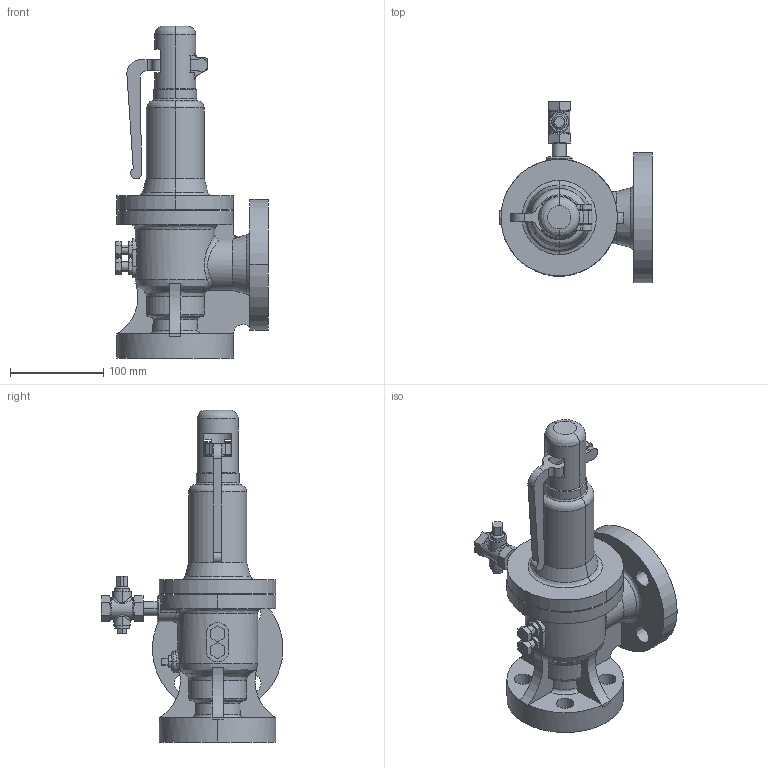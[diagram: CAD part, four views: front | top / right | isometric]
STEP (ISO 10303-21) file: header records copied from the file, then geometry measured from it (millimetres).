
FILE_DESCRIPTION( (''), '2;1');
FILE_NAME ('PC1027.9568.AF-4 25A_21315.stp','2025-07-28T12:00:15',(''),(''),'spGate 19.8.4 (****-****-****-****)','','');
FILE_SCHEMA (('AUTOMOTIVE_DESIGN'));
Length unit declared in the file: millimetre
Products named in the file (7): Assembly; AF-4 本体部P 25A; 背圧絞り弁 25A; 止めボルト 25A; レバーキャップ 25A; レバー 25A; プラグ 8A
Assembly tree (7 placements, depth 2):
  Assembly
    AF-4 本体部P 25A
    背圧絞り弁 25A
    止めボルト 25A  x2
    レバーキャップ 25A
    レバー 25A
    プラグ 8A
Bounding box: 164 x 195 x 356 mm (x, y, z)
Volume: 2036358.8 mm3; surface area: 231593 mm2
Topology: 7 solids, 7 shells, 357 faces, 922 edges, 598 vertices
Faces by surface type: plane 154, cylinder 107, bspline 94, sphere 2
Entity records: 26311 total; most frequent: CARTESIAN_POINT 11446, ORIENTED_EDGE 1760, DIRECTION 1497, COLOUR_RGB 1225, PRESENTATION_STYLE_ASSIGNMENT 1225, STYLED_ITEM 1225, EDGE_CURVE 880, DRAUGHTING_PRE_DEFINED_CURVE_FONT 880
